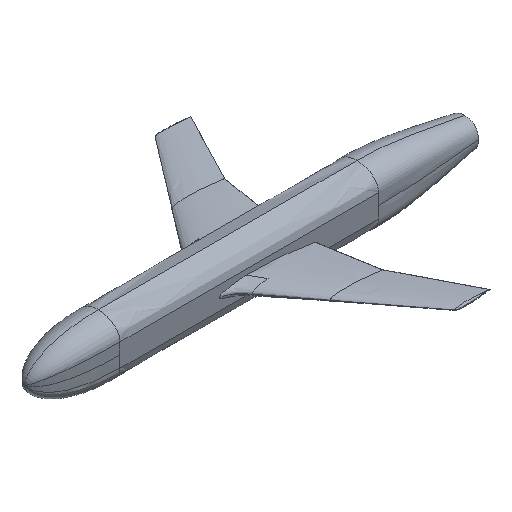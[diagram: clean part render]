
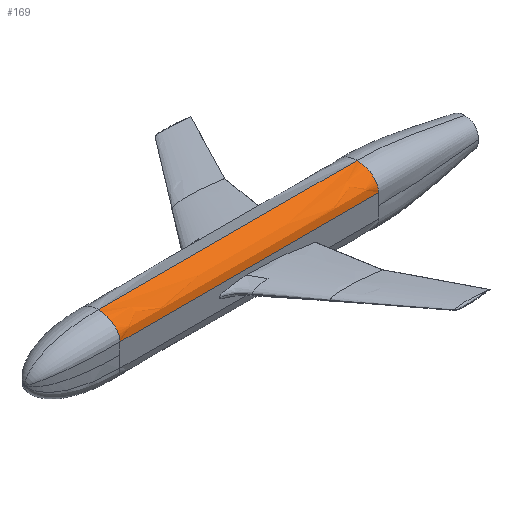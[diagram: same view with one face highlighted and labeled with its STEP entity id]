
A CAD part, isometric view. The second image highlights one B-rep face of the part: STEP entity #169.
In plain terms, the highlighted free-form (B-spline) face has degree [2, 3] with [3, 4] control points.
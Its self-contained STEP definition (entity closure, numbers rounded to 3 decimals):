
#106=(
BOUNDED_SURFACE()
B_SPLINE_SURFACE(2,3,((#34319,#34320,#34321,#34322),(#34323,#34324,#34325,
#34326),(#34327,#34328,#34329,#34330)),.UNSPECIFIED.,.F.,.F.,.F.)
B_SPLINE_SURFACE_WITH_KNOTS((3,3),(4,4),(0.,1.),(0.,1.),.UNSPECIFIED.)
GEOMETRIC_REPRESENTATION_ITEM()
RATIONAL_B_SPLINE_SURFACE(((1.108,1.108,1.108,
1.108),(0.784,0.784,0.784,
0.784),(1.108,1.108,1.108,
1.108)))
REPRESENTATION_ITEM('')
SURFACE()
);
#112=(
BOUNDED_CURVE()
B_SPLINE_CURVE(3,(#17586,#17587,#17588,#17589),.UNSPECIFIED.,.F.,.F.)
B_SPLINE_CURVE_WITH_KNOTS((4,4),(0.,1.),.UNSPECIFIED.)
CURVE()
GEOMETRIC_REPRESENTATION_ITEM()
RATIONAL_B_SPLINE_CURVE((1.108,1.108,1.108,
1.108))
REPRESENTATION_ITEM('')
);
#113=(
BOUNDED_CURVE()
B_SPLINE_CURVE(2,(#29963,#29964,#29965),.UNSPECIFIED.,.F.,.F.)
B_SPLINE_CURVE_WITH_KNOTS((3,3),(0.,1.),.UNSPECIFIED.)
CURVE()
GEOMETRIC_REPRESENTATION_ITEM()
RATIONAL_B_SPLINE_CURVE((1.108,0.784,1.108))
REPRESENTATION_ITEM('')
);
#115=(
BOUNDED_CURVE()
B_SPLINE_CURVE(2,(#32199,#32200,#32201),.UNSPECIFIED.,.F.,.F.)
B_SPLINE_CURVE_WITH_KNOTS((3,3),(0.,1.),.UNSPECIFIED.)
CURVE()
GEOMETRIC_REPRESENTATION_ITEM()
RATIONAL_B_SPLINE_CURVE((1.108,0.784,1.108))
REPRESENTATION_ITEM('')
);
#169=ADVANCED_FACE('',(#236),#106,.F.);
#236=FACE_OUTER_BOUND('',#279,.T.);
#279=EDGE_LOOP('',(#449,#450,#451,#452));
#449=ORIENTED_EDGE('',*,*,#592,.T.);
#450=ORIENTED_EDGE('',*,*,#580,.F.);
#451=ORIENTED_EDGE('',*,*,#586,.T.);
#452=ORIENTED_EDGE('',*,*,#554,.F.);
#478=VERTEX_POINT('',#13095);
#483=VERTEX_POINT('',#15381);
#501=VERTEX_POINT('',#29942);
#502=VERTEX_POINT('',#29943);
#554=EDGE_CURVE('',#483,#478,#112,.T.);
#580=EDGE_CURVE('',#501,#502,#662,.T.);
#586=EDGE_CURVE('',#501,#478,#113,.T.);
#592=EDGE_CURVE('',#483,#502,#115,.T.);
#662=B_SPLINE_CURVE_WITH_KNOTS('',1,(#29940,#29941),.UNSPECIFIED.,.F.,.F.,
(2,2),(0.,1.),.UNSPECIFIED.);
#13095=CARTESIAN_POINT('',(3657.6,0.,314.858));
#15381=CARTESIAN_POINT('',(812.8,0.,314.858));
#17586=CARTESIAN_POINT('',(812.8,0.,314.858));
#17587=CARTESIAN_POINT('',(1761.067,0.,314.858));
#17588=CARTESIAN_POINT('',(2709.333,0.,314.858));
#17589=CARTESIAN_POINT('',(3657.6,0.,314.858));
#29940=CARTESIAN_POINT('',(3657.6,-236.098,125.943));
#29941=CARTESIAN_POINT('',(812.8,-236.098,125.943));
#29942=CARTESIAN_POINT('',(3657.6,-236.098,125.943));
#29943=CARTESIAN_POINT('',(812.8,-236.098,125.943));
#29963=CARTESIAN_POINT('',(3657.6,-236.098,125.943));
#29964=CARTESIAN_POINT('',(3657.6,-236.098,314.858));
#29965=CARTESIAN_POINT('',(3657.6,0.,314.858));
#32199=CARTESIAN_POINT('',(812.8,0.,314.858));
#32200=CARTESIAN_POINT('',(812.8,-236.098,314.858));
#32201=CARTESIAN_POINT('',(812.8,-236.098,125.943));
#34319=CARTESIAN_POINT('',(812.8,-236.098,125.943));
#34320=CARTESIAN_POINT('',(1761.067,-236.098,125.943));
#34321=CARTESIAN_POINT('',(2709.333,-236.098,125.943));
#34322=CARTESIAN_POINT('',(3657.6,-236.098,125.943));
#34323=CARTESIAN_POINT('',(812.8,-236.098,314.858));
#34324=CARTESIAN_POINT('',(1761.067,-236.098,314.858));
#34325=CARTESIAN_POINT('',(2709.333,-236.098,314.858));
#34326=CARTESIAN_POINT('',(3657.6,-236.098,314.858));
#34327=CARTESIAN_POINT('',(812.8,0.,314.858));
#34328=CARTESIAN_POINT('',(1761.067,0.,314.858));
#34329=CARTESIAN_POINT('',(2709.333,0.,314.858));
#34330=CARTESIAN_POINT('',(3657.6,0.,314.858));
